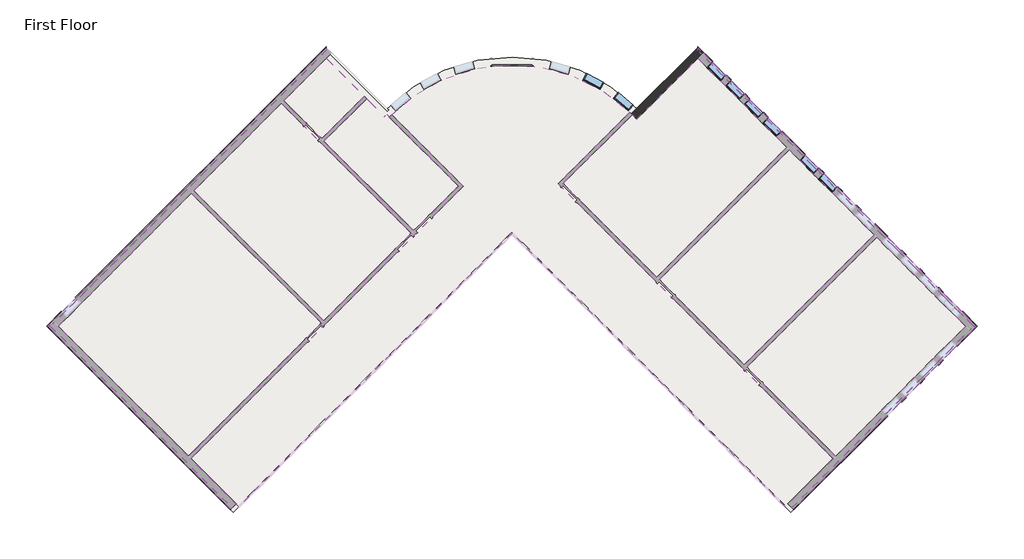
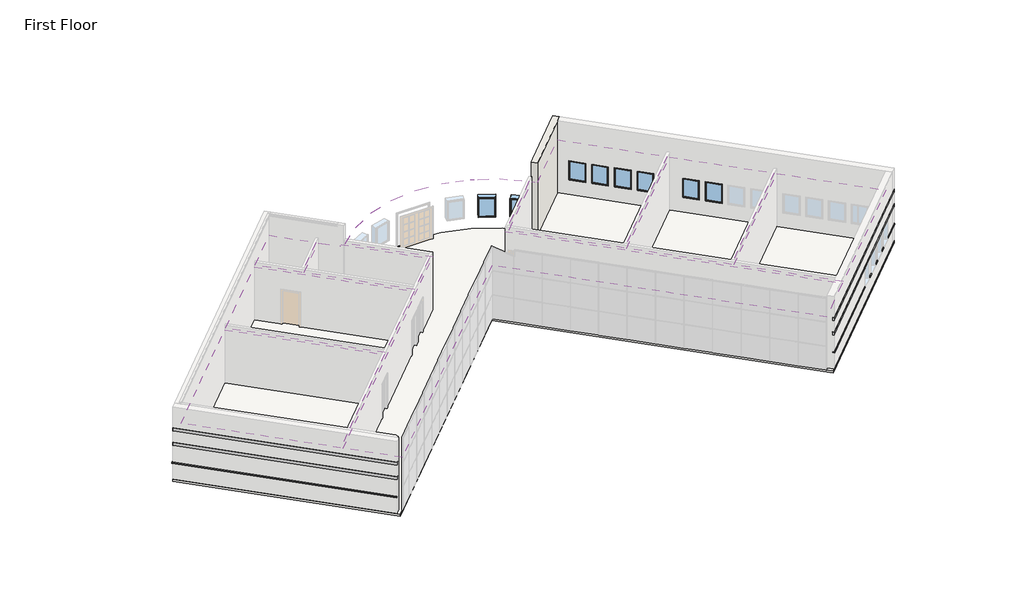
# One storey, part 5 of 5: 12 proxies, 8 coverings, 8 windows, 1 slab, 1 wall.
"""IFC4 building model written with IfcOpenShell, lengths in millimetres."""

from ifc_helpers import new_model, si_unit, point, frame, frame_2d, origin, place, context, project, spatial, polyline, circle_curve, trimmed, segment, composite_curve, outline, extrude, faceted_brep, transform, mapped, element, save
from ifc_brep_helpers import plane_surface, cylinder_surface, revolved_surface, advanced_brep
from components import window_15c49d37, window_0e2fc6ce

model = new_model("IFC4")

# Units and contexts
model_context = context("Model", 3, world=origin())
ifc_project = project(units=[si_unit("LENGTHUNIT", "METRE", prefix="MILLI")], contexts=[model_context])

# Site, building, storey
site = spatial("IfcSite", under=ifc_project)
building = spatial("IfcBuilding", under=site)
storey = spatial("IfcBuildingStorey", under=building, Name="First Floor", Elevation=0.0)

# Proxies
placement = place(None, origin())
element("IfcBuildingElementProxy", 1, Name="Wall Sweeps", at=placement, inside=storey, context=model_context, shape_type="Brep", body=[
    faceted_brep([(17381.0808171, -1390.1662438, 1085.85), (17446.187674, -1325.0593869, 1085.85), (17470.8833783, -1300.3636826, 1041.4), (17470.8833783, -1300.3636826, 1016.0), (17446.187674, -1325.0593869, 1016.0), (17381.0808171, -1390.1662438, 1016.0), (17979.3903812, -1988.4758079, 1085.85), (17979.3903812, -1988.4758079, 1016.0), (18158.9955036, -1988.4758079, 1016.0), (18158.9955036, -1988.4758079, 1041.4), (18109.604095, -1988.4758079, 1085.85)], [[[0, 1, 2, 3, 4, 5]], [[6, 7, 8, 9, 10]], [[1, 0, 6, 10]], [[2, 1, 10, 9]], [[3, 2, 9, 8]], [[5, 4, 3, 8, 7]], [[0, 5, 7, 6]]]),
    faceted_brep([(16269.7741222, -278.8595488, 1085.85), (16334.880979, -213.7526919, 1085.85), (16359.5766834, -189.0569876, 1041.4), (16359.5766834, -189.0569876, 1016.0), (16334.880979, -213.7526919, 1016.0), (16269.7741222, -278.8595488, 1016.0), (16485.3002691, -494.3856957, 1085.85), (16485.3002691, -494.3856957, 1016.0), (16550.4071259, -429.2788388, 1016.0), (16575.1028303, -404.5831345, 1016.0), (16575.1028303, -404.5831345, 1041.4), (16550.4071259, -429.2788388, 1085.85)], [[[0, 1, 2, 3, 4, 5]], [[6, 7, 8, 9, 10, 11]], [[1, 0, 6, 11]], [[2, 1, 11, 10]], [[3, 2, 10, 9]], [[5, 4, 3, 9, 8, 7]], [[0, 5, 7, 6]]]),
    faceted_brep([(15407.6695345, 583.2450388, 1085.85), (15472.7763914, 648.3518957, 1085.85), (15497.4720957, 673.0476, 1041.4), (15497.4720957, 673.0476, 1016.0), (15472.7763914, 648.3518957, 1016.0), (15407.6695345, 583.2450388, 1016.0), (15623.1956814, 367.7188919, 1085.85), (15623.1956814, 367.7188919, 1016.0), (15688.3025383, 432.8257488, 1016.0), (15712.9982426, 457.5214531, 1016.0), (15712.9982426, 457.5214531, 1041.4), (15688.3025383, 432.8257488, 1085.85)], [[[0, 1, 2, 3, 4, 5]], [[6, 7, 8, 9, 10, 11]], [[1, 0, 6, 11]], [[2, 1, 11, 10]], [[3, 2, 10, 9]], [[5, 4, 3, 9, 8, 7]], [[0, 5, 7, 6]]]),
    faceted_brep([(14545.5649469, 1445.3496264, 1085.85), (14610.6718038, 1510.4564833, 1085.85), (14635.3675081, 1535.1521876, 1041.4), (14635.3675081, 1535.1521876, 1016.0), (14610.6718038, 1510.4564833, 1016.0), (14545.5649469, 1445.3496264, 1016.0), (14761.0910938, 1229.8234795, 1085.85), (14761.0910938, 1229.8234795, 1016.0), (14826.1979507, 1294.9303364, 1016.0), (14850.893655, 1319.6260407, 1016.0), (14850.893655, 1319.6260407, 1041.4), (14826.1979507, 1294.9303364, 1085.85)], [[[0, 1, 2, 3, 4, 5]], [[6, 7, 8, 9, 10, 11]], [[1, 0, 6, 11]], [[2, 1, 11, 10]], [[3, 2, 10, 9]], [[5, 4, 3, 9, 8, 7]], [[0, 5, 7, 6]]]),
    faceted_brep([(13319.7599864, 2671.154587, 1085.85), (13384.8668433, 2736.2614438, 1085.85), (13409.5625476, 2760.9571482, 1041.4), (13409.5625476, 2760.9571482, 1016.0), (13384.8668433, 2736.2614438, 1016.0), (13319.7599864, 2671.154587, 1016.0), (13898.9865062, 2091.9280671, 1085.85), (13898.9865062, 2091.9280671, 1016.0), (13964.0933631, 2157.034924, 1016.0), (13988.7890674, 2181.7306284, 1016.0), (13988.7890674, 2181.7306284, 1041.4), (13964.0933631, 2157.034924, 1085.85)], [[[0, 1, 2, 3, 4, 5]], [[6, 7, 8, 9, 10, 11]], [[1, 0, 6, 11]], [[2, 1, 11, 10]], [[3, 2, 10, 9]], [[5, 4, 3, 9, 8, 7]], [[0, 5, 7, 6]]]),
    faceted_brep([(12457.6553988, 3533.2591746, 1085.85), (12522.7622556, 3598.3660315, 1085.85), (12547.45796, 3623.0617358, 1041.4), (12547.45796, 3623.0617358, 1016.0), (12522.7622556, 3598.3660315, 1016.0), (12457.6553988, 3533.2591746, 1016.0), (12673.1815457, 3317.7330277, 1085.85), (12673.1815457, 3317.7330277, 1016.0), (12738.2884025, 3382.8398846, 1016.0), (12762.9841069, 3407.5355889, 1016.0), (12762.9841069, 3407.5355889, 1041.4), (12738.2884025, 3382.8398846, 1085.85)], [[[0, 1, 2, 3, 4, 5]], [[6, 7, 8, 9, 10, 11]], [[1, 0, 6, 11]], [[2, 1, 11, 10]], [[3, 2, 10, 9]], [[5, 4, 3, 9, 8, 7]], [[0, 5, 7, 6]]]),
    faceted_brep([(8147.1324606, 7843.7821127, 1085.85), (8212.2393175, 7908.8889696, 1085.85), (8236.9350219, 7933.5846739, 1041.4), (8236.9350219, 7933.5846739, 1016.0), (8212.2393175, 7908.8889696, 1016.0), (8147.1324606, 7843.7821127, 1016.0), (8362.6586076, 7628.2559658, 1085.85), (8362.6586076, 7628.2559658, 1016.0), (8427.7654644, 7693.3628227, 1016.0), (8452.4611688, 7718.058527, 1016.0), (8452.4611688, 7718.058527, 1041.4), (8427.7654644, 7693.3628227, 1085.85)], [[[0, 1, 2, 3, 4, 5]], [[6, 7, 8, 9, 10, 11]], [[1, 0, 6, 11]], [[2, 1, 11, 10]], [[3, 2, 10, 9]], [[5, 4, 3, 9, 8, 7]], [[0, 5, 7, 6]]]),
    faceted_brep([(9009.2370483, 6981.6775251, 1085.85), (9074.3439051, 7046.7843819, 1085.85), (9099.0396095, 7071.4800863, 1041.4), (9099.0396095, 7071.4800863, 1016.0), (9074.3439051, 7046.7843819, 1016.0), (9009.2370483, 6981.6775251, 1016.0), (10086.8677828, 5904.0467905, 1085.85), (10086.8677828, 5904.0467905, 1016.0), (10151.9746397, 5969.1536474, 1016.0), (10176.670344, 5993.8493518, 1016.0), (10176.670344, 5993.8493518, 1041.4), (10151.9746397, 5969.1536474, 1085.85)], [[[0, 1, 2, 3, 4, 5]], [[6, 7, 8, 9, 10, 11]], [[1, 0, 6, 11]], [[2, 1, 11, 10]], [[3, 2, 10, 9]], [[5, 4, 3, 9, 8, 7]], [[0, 5, 7, 6]]]),
    faceted_brep([(10733.4462235, 5257.4683498, 1085.85), (10798.5530804, 5322.5752067, 1085.85), (10823.2487847, 5347.270911, 1041.4), (10823.2487847, 5347.270911, 1016.0), (10798.5530804, 5322.5752067, 1016.0), (10733.4462235, 5257.4683498, 1016.0), (10948.9723704, 5041.9422029, 1085.85), (10948.9723704, 5041.9422029, 1016.0), (11014.0792273, 5107.0490598, 1016.0), (11038.7749316, 5131.7447641, 1016.0), (11038.7749316, 5131.7447641, 1041.4), (11014.0792273, 5107.0490598, 1085.85)], [[[0, 1, 2, 3, 4, 5]], [[6, 7, 8, 9, 10, 11]], [[1, 0, 6, 11]], [[2, 1, 11, 10]], [[3, 2, 10, 9]], [[5, 4, 3, 9, 8, 7]], [[0, 5, 7, 6]]]),
    faceted_brep([(11595.5508111, 4395.3637622, 1085.85), (11660.657668, 4460.4706191, 1085.85), (11685.3533723, 4485.1663234, 1041.4), (11685.3533723, 4485.1663234, 1016.0), (11660.657668, 4460.4706191, 1016.0), (11595.5508111, 4395.3637622, 1016.0), (11811.076958, 4179.8376153, 1085.85), (11811.076958, 4179.8376153, 1016.0), (11876.1838149, 4244.9444722, 1016.0), (11900.8795193, 4269.6401765, 1016.0), (11900.8795193, 4269.6401765, 1041.4), (11876.1838149, 4244.9444722, 1085.85)], [[[0, 1, 2, 3, 4, 5]], [[6, 7, 8, 9, 10, 11]], [[1, 0, 6, 11]], [[2, 1, 11, 10]], [[3, 2, 10, 9]], [[5, 4, 3, 9, 8, 7]], [[0, 5, 7, 6]]]),
    faceted_brep([(5178.0352806, 10812.8792927, 1085.85), (5178.0352806, 10943.0930065, 1085.85), (5178.0352806, 10992.4844151, 1041.4), (5178.0352806, 10992.4844151, 1016.0), (5178.0352806, 10812.8792927, 1016.0), (5776.3448447, 10214.5697287, 1085.85), (5776.3448447, 10214.5697287, 1016.0), (5841.4517016, 10279.6765855, 1016.0), (5866.1474059, 10304.3722899, 1016.0), (5866.1474059, 10304.3722899, 1041.4), (5841.4517016, 10279.6765855, 1085.85), (5362.1305311, 10628.7840422, 1085.85), (5362.1305311, 10628.7840422, 1016.0)], [[[0, 1, 2, 3, 4]], [[5, 6, 7, 8, 9, 10]], [[1, 0, 11, 5, 10]], [[2, 1, 10, 9]], [[3, 2, 9, 8]], [[4, 3, 8, 7, 6, 12]], [[0, 4, 12, 6, 5, 11]]]),
    faceted_brep([(6422.9232854, 9567.9912879, 1085.85), (6488.0301423, 9633.0981448, 1085.85), (6512.7258466, 9657.7938491, 1041.4), (6512.7258466, 9657.7938491, 1016.0), (6488.0301423, 9633.0981448, 1016.0), (6422.9232854, 9567.9912879, 1016.0), (6638.4494323, 9352.465141, 1085.85), (6638.4494323, 9352.465141, 1016.0), (6703.5562892, 9417.5719979, 1016.0), (6728.2519935, 9442.2677022, 1016.0), (6728.2519935, 9442.2677022, 1041.4), (6703.5562892, 9417.5719979, 1085.85)], [[[0, 1, 2, 3, 4, 5]], [[6, 7, 8, 9, 10, 11]], [[1, 0, 6, 11]], [[2, 1, 11, 10]], [[3, 2, 10, 9]], [[5, 4, 3, 9, 8, 7]], [[0, 5, 7, 6]]]),
    faceted_brep([(7285.027873, 8705.8867003, 1085.85), (7350.1347299, 8770.9935572, 1085.85), (7374.8304342, 8795.6892615, 1041.4), (7374.8304342, 8795.6892615, 1016.0), (7350.1347299, 8770.9935572, 1016.0), (7285.027873, 8705.8867003, 1016.0), (7500.5540199, 8490.3605534, 1085.85), (7500.5540199, 8490.3605534, 1016.0), (7565.6608768, 8555.4674103, 1016.0), (7590.3565811, 8580.1631146, 1016.0), (7590.3565811, 8580.1631146, 1041.4), (7565.6608768, 8555.4674103, 1085.85)], [[[0, 1, 2, 3, 4, 5]], [[6, 7, 8, 9, 10, 11]], [[1, 0, 6, 11]], [[2, 1, 11, 10]], [[3, 2, 10, 9]], [[5, 4, 3, 9, 8, 7]], [[0, 5, 7, 6]]]),
])
element("IfcBuildingElementProxy", 2, Name="Wall Sweeps", at=placement, inside=storey, context=model_context, shape_type="Brep", body=[
    faceted_brep([(5178.0352806, 10943.0930065, 2336.8), (5178.0352806, 10943.0930065, 2133.6), (5178.0352806, 10812.8792927, 2133.6), (5178.0352806, 10812.8792927, 2336.8), (18109.604095, -1988.4758079, 2336.8), (17979.3903812, -1988.4758079, 2336.8), (17979.3903812, -1988.4758079, 2133.6), (18109.604095, -1988.4758079, 2133.6), (5427.237388, 10693.8908991, 2336.8), (17446.187674, -1325.0593869, 2133.6), (16550.4071259, -429.2788388, 2133.6), (16334.880979, -213.7526919, 2133.6), (15688.3025383, 432.8257488, 2133.6), (15472.7763914, 648.3518957, 2133.6), (14826.1979507, 1294.9303364, 2133.6), (14610.6718038, 1510.4564833, 2133.6), (13964.0933631, 2157.034924, 2133.6), (13384.8668433, 2736.2614438, 2133.6), (12738.2884025, 3382.8398846, 2133.6), (12522.7622556, 3598.3660315, 2133.6), (11876.1838149, 4244.9444722, 2133.6), (11660.657668, 4460.4706191, 2133.6), (11014.0792273, 5107.0490598, 2133.6), (10798.5530804, 5322.5752067, 2133.6), (10151.9746397, 5969.1536474, 2133.6), (9074.3439051, 7046.7843819, 2133.6), (8427.7654644, 7693.3628227, 2133.6), (8212.2393175, 7908.8889696, 2133.6), (7565.6608768, 8555.4674103, 2133.6), (7350.1347299, 8770.9935572, 2133.6), (6703.5562892, 9417.5719979, 2133.6), (6488.0301423, 9633.0981448, 2133.6), (5841.4517016, 10279.6765855, 2133.6), (5427.237388, 10693.8908991, 2133.6), (17381.0808171, -1390.1662438, 2133.6), (16485.3002691, -494.3856957, 2133.6), (16269.7741222, -278.8595488, 2133.6), (15623.1956814, 367.7188919, 2133.6), (15407.6695345, 583.2450388, 2133.6), (14761.0910938, 1229.8234795, 2133.6), (14545.5649469, 1445.3496264, 2133.6), (13898.9865062, 2091.9280671, 2133.6), (13319.7599864, 2671.154587, 2133.6), (12673.1815457, 3317.7330277, 2133.6), (12457.6553988, 3533.2591746, 2133.6), (11811.076958, 4179.8376153, 2133.6), (11595.5508111, 4395.3637622, 2133.6), (10948.9723704, 5041.9422029, 2133.6), (10733.4462235, 5257.4683498, 2133.6), (10086.8677828, 5904.0467905, 2133.6), (9009.2370483, 6981.6775251, 2133.6), (8362.6586076, 7628.2559658, 2133.6), (8147.1324606, 7843.7821127, 2133.6), (7500.5540199, 8490.3605534, 2133.6), (7285.027873, 8705.8867003, 2133.6), (6638.4494323, 9352.465141, 2133.6), (6422.9232854, 9567.9912879, 2133.6), (5776.3448447, 10214.5697287, 2133.6), (5362.1305311, 10628.7840422, 2133.6), (5362.1305311, 10628.7840422, 2336.8)], [[[0, 1, 2, 3]], [[4, 5, 6, 7]], [[1, 0, 8, 4, 7, 9, 10, 11, 12, 13, 14, 15, 16, 17, 18, 19, 20, 21, 22, 23, 24, 25, 26, 27, 28, 29, 30, 31, 32, 33]], [[2, 1, 33, 32, 31, 30, 29, 28, 27, 26, 25, 24, 23, 22, 21, 20, 19, 18, 17, 16, 15, 14, 13, 12, 11, 10, 9, 7, 6, 34, 35, 36, 37, 38, 39, 40, 41, 42, 43, 44, 45, 46, 47, 48, 49, 50, 51, 52, 53, 54, 55, 56, 57, 58]], [[3, 2, 58, 57, 56, 55, 54, 53, 52, 51, 50, 49, 48, 47, 46, 45, 44, 43, 42, 41, 40, 39, 38, 37, 36, 35, 34, 6, 5, 59]], [[0, 3, 59, 5, 4, 8]]]),
])
element("IfcBuildingElementProxy", 3, Name="Wall Sweeps", at=placement, inside=storey, context=model_context, shape_type="Brep", body=[
    faceted_brep([(5178.0352806, 10943.0930065, 3251.2), (5178.0352806, 10943.0930065, 3048.0), (5178.0352806, 10812.8792927, 3048.0), (5178.0352806, 10812.8792927, 3251.2), (18109.604095, -1988.4758079, 3251.2), (17979.3903812, -1988.4758079, 3251.2), (17979.3903812, -1988.4758079, 3048.0), (18109.604095, -1988.4758079, 3048.0), (5427.237388, 10693.8908991, 3251.2), (5427.237388, 10693.8908991, 3048.0), (5362.1305311, 10628.7840422, 3048.0), (5362.1305311, 10628.7840422, 3251.2)], [[[0, 1, 2, 3]], [[4, 5, 6, 7]], [[1, 0, 8, 4, 7, 9]], [[2, 1, 9, 7, 6, 10]], [[3, 2, 10, 6, 5, 11]], [[0, 3, 11, 5, 4, 8]]]),
])
element("IfcBuildingElementProxy", 4, Name="Wall Sweeps", at=placement, inside=storey, context=model_context, shape_type="Brep", body=[
    faceted_brep([(13898.9865062, -6068.8796829, 1085.85), (13964.0933631, -6133.9865398, 1085.85), (13988.7890674, -6158.6822441, 1041.4), (13988.7890674, -6158.6822441, 1016.0), (13964.0933631, -6133.9865398, 1016.0), (13898.9865062, -6068.8796829, 1016.0), (9548.0524155, -10419.8137735, 1085.85), (9548.0524155, -10419.8137735, 1016.0), (9613.1592724, -10484.9206304, 1016.0), (9637.8549767, -10509.6163347, 1016.0), (9637.8549767, -10509.6163347, 1041.4), (9613.1592724, -10484.9206304, 1085.85)], [[[0, 1, 2, 3, 4, 5]], [[6, 7, 8, 9, 10, 11]], [[1, 0, 6, 11]], [[2, 1, 11, 10]], [[3, 2, 10, 9]], [[5, 4, 3, 9, 8, 7]], [[0, 5, 7, 6]]]),
    faceted_brep([(17979.3903812, -1988.4758079, 1085.85), (18109.604095, -1988.4758079, 1085.85), (18158.9955036, -1988.4758079, 1041.4), (18158.9955036, -1988.4758079, 1016.0), (17979.3903812, -1988.4758079, 1016.0), (17131.8787098, -2835.9874793, 1085.85), (17131.8787098, -2835.9874793, 1016.0), (17196.9855667, -2901.0943362, 1016.0), (17221.681271, -2925.7900405, 1016.0), (17221.681271, -2925.7900405, 1041.4), (17196.9855667, -2901.0943362, 1085.85), (17795.2951307, -2172.5710583, 1085.85), (17795.2951307, -2172.5710583, 1016.0)], [[[0, 1, 2, 3, 4]], [[5, 6, 7, 8, 9, 10]], [[1, 0, 11, 5, 10]], [[2, 1, 10, 9]], [[3, 2, 9, 8]], [[4, 3, 8, 7, 6, 12]], [[0, 4, 12, 6, 5, 11]]]),
    faceted_brep([(16485.3002691, -3482.56592, 1085.85), (16550.4071259, -3547.6727769, 1085.85), (16575.1028303, -3572.3684812, 1041.4), (16575.1028303, -3572.3684812, 1016.0), (16550.4071259, -3547.6727769, 1016.0), (16485.3002691, -3482.56592, 1016.0), (16269.7741222, -3698.0920669, 1085.85), (16269.7741222, -3698.0920669, 1016.0), (16334.880979, -3763.1989238, 1016.0), (16359.5766834, -3787.8946281, 1016.0), (16359.5766834, -3787.8946281, 1041.4), (16334.880979, -3763.1989238, 1085.85)], [[[0, 1, 2, 3, 4, 5]], [[6, 7, 8, 9, 10, 11]], [[1, 0, 6, 11]], [[2, 1, 11, 10]], [[3, 2, 10, 9]], [[5, 4, 3, 9, 8, 7]], [[0, 5, 7, 6]]]),
    faceted_brep([(15623.1956814, -4344.6705076, 1085.85), (15688.3025383, -4409.7773645, 1085.85), (15712.9982426, -4434.4730688, 1041.4), (15712.9982426, -4434.4730688, 1016.0), (15688.3025383, -4409.7773645, 1016.0), (15623.1956814, -4344.6705076, 1016.0), (15407.6695345, -4560.1966545, 1085.85), (15407.6695345, -4560.1966545, 1016.0), (15472.7763914, -4625.3035114, 1016.0), (15497.4720957, -4649.9992157, 1016.0), (15497.4720957, -4649.9992157, 1041.4), (15472.7763914, -4625.3035114, 1085.85)], [[[0, 1, 2, 3, 4, 5]], [[6, 7, 8, 9, 10, 11]], [[1, 0, 6, 11]], [[2, 1, 11, 10]], [[3, 2, 10, 9]], [[5, 4, 3, 9, 8, 7]], [[0, 5, 7, 6]]]),
    faceted_brep([(14761.0910938, -5206.7750953, 1085.85), (14826.1979507, -5271.8819521, 1085.85), (14850.893655, -5296.5776565, 1041.4), (14850.893655, -5296.5776565, 1016.0), (14826.1979507, -5271.8819521, 1016.0), (14761.0910938, -5206.7750953, 1016.0), (14545.5649469, -5422.3012422, 1085.85), (14545.5649469, -5422.3012422, 1016.0), (14610.6718038, -5487.408099, 1016.0), (14635.3675081, -5512.1038034, 1016.0), (14635.3675081, -5512.1038034, 1041.4), (14610.6718038, -5487.408099, 1085.85)], [[[0, 1, 2, 3, 4, 5]], [[6, 7, 8, 9, 10, 11]], [[1, 0, 6, 11]], [[2, 1, 11, 10]], [[3, 2, 10, 9]], [[5, 4, 3, 9, 8, 7]], [[0, 5, 7, 6]]]),
])
element("IfcBuildingElementProxy", 5, Name="Wall Sweeps", at=placement, inside=storey, context=model_context, shape_type="Brep", body=[
    faceted_brep([(18109.604095, -1988.4758079, 2336.8), (18109.604095, -1988.4758079, 2133.6), (17979.3903812, -1988.4758079, 2133.6), (17979.3903812, -1988.4758079, 2336.8), (9613.1592724, -10484.9206304, 2336.8), (9548.0524155, -10419.8137735, 2336.8), (9548.0524155, -10419.8137735, 2133.6), (9613.1592724, -10484.9206304, 2133.6), (17860.4019876, -2237.6779152, 2336.8), (13964.0933631, -6133.9865398, 2133.6), (14610.6718038, -5487.408099, 2133.6), (14826.1979507, -5271.8819521, 2133.6), (15472.7763914, -4625.3035114, 2133.6), (15688.3025383, -4409.7773645, 2133.6), (16334.880979, -3763.1989238, 2133.6), (16550.4071259, -3547.6727769, 2133.6), (17196.9855667, -2901.0943362, 2133.6), (17860.4019876, -2237.6779152, 2133.6), (13898.9865062, -6068.8796829, 2133.6), (14545.5649469, -5422.3012422, 2133.6), (14761.0910938, -5206.7750953, 2133.6), (15407.6695345, -4560.1966545, 2133.6), (15623.1956814, -4344.6705076, 2133.6), (16269.7741222, -3698.0920669, 2133.6), (16485.3002691, -3482.56592, 2133.6), (17131.8787098, -2835.9874793, 2133.6), (17795.2951307, -2172.5710583, 2133.6), (17795.2951307, -2172.5710583, 2336.8)], [[[0, 1, 2, 3]], [[4, 5, 6, 7]], [[1, 0, 8, 4, 7, 9, 10, 11, 12, 13, 14, 15, 16, 17]], [[2, 1, 17, 16, 15, 14, 13, 12, 11, 10, 9, 7, 6, 18, 19, 20, 21, 22, 23, 24, 25, 26]], [[3, 2, 26, 25, 24, 23, 22, 21, 20, 19, 18, 6, 5, 27]], [[0, 3, 27, 5, 4, 8]]]),
])
element("IfcBuildingElementProxy", 6, Name="Wall Sweeps", at=placement, inside=storey, context=model_context, shape_type="Brep", body=[
    faceted_brep([(18109.604095, -1988.4758079, 3251.2), (18109.604095, -1988.4758079, 3048.0), (17979.3903812, -1988.4758079, 3048.0), (17979.3903812, -1988.4758079, 3251.2), (9613.1592724, -10484.9206304, 3251.2), (9548.0524155, -10419.8137735, 3251.2), (9548.0524155, -10419.8137735, 3048.0), (9613.1592724, -10484.9206304, 3048.0), (17860.4019876, -2237.6779152, 3251.2), (17860.4019876, -2237.6779152, 3048.0), (17795.2951307, -2172.5710583, 3048.0), (17795.2951307, -2172.5710583, 3251.2)], [[[0, 1, 2, 3]], [[4, 5, 6, 7]], [[1, 0, 8, 4, 7, 9]], [[2, 1, 9, 7, 6, 10]], [[3, 2, 10, 6, 5, 11]], [[0, 3, 11, 5, 4, 8]]]),
])
element("IfcBuildingElementProxy", 7, Name="Wall Sweeps", at=placement, inside=storey, context=model_context, shape_type="Brep", body=[
    faceted_brep([(-16434.0736067, -10419.8137735, 1085.85), (-16499.1804636, -10484.9206304, 1085.85), (-16523.876168, -10509.6163347, 1041.4), (-16523.876168, -10509.6163347, 1016.0), (-16499.1804636, -10484.9206304, 1016.0), (-16434.0736067, -10419.8137735, 1016.0), (-24865.4115724, -1988.4758079, 1085.85), (-24865.4115724, -1988.4758079, 1016.0), (-25045.0166948, -1988.4758079, 1016.0), (-25045.0166948, -1988.4758079, 1041.4), (-24995.6252862, -1988.4758079, 1085.85)], [[[0, 1, 2, 3, 4, 5]], [[6, 7, 8, 9, 10]], [[1, 0, 6, 10]], [[2, 1, 10, 9]], [[3, 2, 9, 8]], [[5, 4, 3, 8, 7]], [[0, 5, 7, 6]]]),
])
element("IfcBuildingElementProxy", 8, Name="Wall Sweeps", at=placement, inside=storey, context=model_context, shape_type="SweptSolid", body=[
    extrude(outline(polyline([(-16434.0736067, -10419.8137735), (-16499.1804636, -10484.9206304), (-24995.6252862, -1988.4758079), (-24865.4115724, -1988.4758079), (-16434.0736067, -10419.8137735)])), frame((0.0, 0.0, 2133.6), z_axis=(0.0, 0.0, 1.0), x_axis=(1.0, 0.0, 0.0)), (0.0, 0.0, 1.0), 203.2),
])
element("IfcBuildingElementProxy", 9, Name="Wall Sweeps", at=placement, inside=storey, context=model_context, shape_type="SweptSolid", body=[
    extrude(outline(polyline([(-16434.0736067, -10419.8137735), (-16499.1804636, -10484.9206304), (-24995.6252862, -1988.4758079), (-24865.4115724, -1988.4758079), (-16434.0736067, -10419.8137735)])), frame((0.0, 0.0, 3048.0), z_axis=(0.0, 0.0, 1.0), x_axis=(1.0, 0.0, 0.0)), (0.0, 0.0, 1.0), 203.2),
])
element("IfcBuildingElementProxy", 10, Name="Wall Sweeps", at=placement, inside=storey, context=model_context, shape_type="Brep", body=[
    faceted_brep([(-23620.5235676, -743.5878031, 1085.85), (-23685.6304245, -678.4809462, 1085.85), (-23710.3261288, -653.7852419, 1041.4), (-23710.3261288, -653.7852419, 1016.0), (-23685.6304245, -678.4809462, 1016.0), (-23620.5235676, -743.5878031, 1016.0), (-12064.0564718, 10812.8792927, 1085.85), (-12064.0564718, 10812.8792927, 1016.0), (-12064.0564718, 10992.4844151, 1016.0), (-12064.0564718, 10992.4844151, 1041.4), (-12064.0564718, 10943.0930065, 1085.85)], [[[0, 1, 2, 3, 4, 5]], [[6, 7, 8, 9, 10]], [[1, 0, 6, 10]], [[2, 1, 10, 9]], [[3, 2, 9, 8]], [[5, 4, 3, 8, 7]], [[0, 5, 7, 6]]]),
    faceted_brep([(-24865.4115724, -1988.4758079, 1085.85), (-24995.6252862, -1988.4758079, 1085.85), (-25045.0166948, -1988.4758079, 1041.4), (-25045.0166948, -1988.4758079, 1016.0), (-24865.4115724, -1988.4758079, 1016.0), (-24267.1020084, -1390.1662438, 1085.85), (-24267.1020084, -1390.1662438, 1016.0), (-24332.2088652, -1325.0593869, 1016.0), (-24356.9045696, -1300.3636826, 1016.0), (-24356.9045696, -1300.3636826, 1041.4), (-24332.2088652, -1325.0593869, 1085.85), (-24681.3163219, -1804.3805574, 1085.85), (-24681.3163219, -1804.3805574, 1016.0)], [[[0, 1, 2, 3, 4]], [[5, 6, 7, 8, 9, 10]], [[1, 0, 11, 5, 10]], [[2, 1, 10, 9]], [[3, 2, 9, 8]], [[4, 3, 8, 7, 6, 12]], [[0, 4, 12, 6, 5, 11]]]),
])
element("IfcBuildingElementProxy", 11, Name="Wall Sweeps", at=placement, inside=storey, context=model_context, shape_type="Brep", body=[
    faceted_brep([(-24995.6252862, -1988.4758079, 2336.8), (-24995.6252862, -1988.4758079, 2133.6), (-24865.4115724, -1988.4758079, 2133.6), (-24865.4115724, -1988.4758079, 2336.8), (-12064.0564718, 10943.0930065, 2336.8), (-12064.0564718, 10812.8792927, 2336.8), (-12064.0564718, 10812.8792927, 2133.6), (-12064.0564718, 10943.0930065, 2133.6), (-24746.4231788, -1739.2737005, 2336.8), (-23685.6304245, -678.4809462, 2133.6), (-24332.2088652, -1325.0593869, 2133.6), (-24746.4231788, -1739.2737005, 2133.6), (-23620.5235676, -743.5878031, 2133.6), (-24267.1020084, -1390.1662438, 2133.6), (-24681.3163219, -1804.3805574, 2133.6), (-24681.3163219, -1804.3805574, 2336.8)], [[[0, 1, 2, 3]], [[4, 5, 6, 7]], [[1, 0, 8, 4, 7, 9, 10, 11]], [[2, 1, 11, 10, 9, 7, 6, 12, 13, 14]], [[3, 2, 14, 13, 12, 6, 5, 15]], [[0, 3, 15, 5, 4, 8]]]),
])
element("IfcBuildingElementProxy", 12, Name="Wall Sweeps", at=placement, inside=storey, context=model_context, shape_type="Brep", body=[
    faceted_brep([(-24995.6252862, -1988.4758079, 3251.2), (-24995.6252862, -1988.4758079, 3048.0), (-24865.4115724, -1988.4758079, 3048.0), (-24865.4115724, -1988.4758079, 3251.2), (-12064.0564718, 10943.0930065, 3251.2), (-12064.0564718, 10812.8792927, 3251.2), (-12064.0564718, 10812.8792927, 3048.0), (-12064.0564718, 10943.0930065, 3048.0), (-24746.4231788, -1739.2737005, 3251.2), (-24746.4231788, -1739.2737005, 3048.0), (-24681.3163219, -1804.3805574, 3048.0), (-24681.3163219, -1804.3805574, 3251.2)], [[[0, 1, 2, 3]], [[4, 5, 6, 7]], [[1, 0, 8, 4, 7, 9]], [[2, 1, 9, 7, 6, 10]], [[3, 2, 10, 6, 5, 11]], [[0, 3, 11, 5, 4, 8]]]),
])

# Coverings
element("IfcCovering", 13, ObjectType="2' x 2' ACT System", at=placement, inside=storey, context=model_context, shape_type="SweptSolid", body=[
    extrude(outline(polyline([(-12281.8276828, -1847.036774), (-18460.2438941, -8025.4529853), (-24497.2210715, -1988.4758079), (-18318.8048602, 4189.9404034), (-12281.8276828, -1847.036774)])), frame((0.0, 0.0, 3352.8), z_axis=(0.0, 0.0, 1.0), x_axis=(1.0, 0.0, 0.0)), (0.0, 0.0, 1.0), 57.15),
])
element("IfcCovering", 14, ObjectType="2' x 2' ACT System", at=placement, inside=storey, context=model_context, shape_type="SweptSolid", body=[
    extrude(outline(polyline([(-18208.7967227, 4299.9485409), (-14149.720956, 8359.0243076), (-8112.7437786, 2322.0471303), (-12171.8195453, -1737.0286365), (-18208.7967227, 4299.9485409)])), frame((0.0, 0.0, 3352.8), z_axis=(0.0, 0.0, 1.0), x_axis=(1.0, 0.0, 0.0)), (0.0, 0.0, 1.0), 57.15),
])
element("IfcCovering", 15, ObjectType="2' x 2' ACT System", at=placement, inside=storey, context=model_context, shape_type="SweptSolid", body=[
    extrude(outline(polyline([(-14039.7128185, 8469.0324451), (-12064.0564718, 10444.6887918), (-10303.9262721, 8684.558592), (-12279.5826187, 6708.9022454), (-14039.7128185, 8469.0324451)])), frame((0.0, 0.0, 3352.8), z_axis=(0.0, 0.0, 1.0), x_axis=(1.0, 0.0, 0.0)), (0.0, 0.0, 1.0), 57.15),
])
element("IfcCovering", 16, ObjectType="2' x 2' ACT System", at=placement, inside=storey, context=model_context, shape_type="SweptSolid", body=[
    extrude(outline(polyline([(-10193.9181346, 8574.5504545), (-9361.2454813, 7741.8778012), (-9257.9725359, 7845.1507466), (-5923.8063491, 4510.9845598), (-8002.7356411, 2432.0552677), (-12169.5744813, 6598.8941079), (-10193.9181346, 8574.5504545)])), frame((0.0, 0.0, 3352.8), z_axis=(0.0, 0.0, 1.0), x_axis=(1.0, 0.0, 0.0)), (0.0, 0.0, 1.0), 57.15),
])
element("IfcCovering", 17, ObjectType="2' x 2' ACT System", at=placement, inside=storey, context=model_context, shape_type="SweptSolid", body=[
    extrude(outline(composite_curve([segment(polyline([(-1297.8519147, 4626.6053573), (11464.2145654, -8135.4611227), (9239.3561114, -10360.3195767), (-3443.0105956, 2322.0471303), (-16125.3773026, -10360.3195767), (-18350.2357566, -8135.4611227), (-5703.7900741, 4510.9845598), (-9024.2284636, 7831.4229492)]), True, "CONTINUOUS"), segment(trimmed(circle_curve(frame_2d((-3443.0105956, 2272.6557216)), 7877.175), [point((-9024.2284636, 7831.4229492))], [point((2021.619387, 7946.076659))], False, "CARTESIAN"), True, "CONTINUOUS"), segment(polyline([(2021.619387, 7946.076659), (-1297.8519147, 4626.6053573)]), True, "CONTINUOUS")], self_intersect=False)), frame((0.0, 0.0, 3352.8), z_axis=(0.0, 0.0, 1.0), x_axis=(1.0, 0.0, 0.0)), (0.0, 0.0, 1.0), 57.15),
])
element("IfcCovering", 18, ObjectType="2' x 2' ACT System", at=placement, inside=storey, context=model_context, shape_type="SweptSolid", body=[
    extrude(outline(composite_curve([segment(polyline([(2346.973313, 7613.6268242), (5178.0352806, 10444.6887918), (9308.9530963, 6313.7709761), (3271.9759189, 276.7937987), (-1077.8356397, 4626.6053573), (2132.6030957, 7837.0440928)]), True, "CONTINUOUS"), segment(trimmed(circle_curve(frame_2d((-3443.0105956, 2272.6557216)), 7877.175), [point((2132.6030957, 7837.0440928))], [point((2346.973313, 7613.6268242))], False, "CARTESIAN"), True, "CONTINUOUS")], self_intersect=False)), frame((0.0, 0.0, 3352.8), z_axis=(0.0, 0.0, 1.0), x_axis=(1.0, 0.0, 0.0)), (0.0, 0.0, 1.0), 57.15),
])
element("IfcCovering", 19, ObjectType="2' x 2' ACT System", at=placement, inside=storey, context=model_context, shape_type="SweptSolid", body=[
    extrude(outline(polyline([(3381.9840564, 166.7856612), (9418.9612338, 6203.7628386), (13370.2739271, 2252.4501453), (7333.2967497, -3784.5270321), (3381.9840564, 166.7856612)])), frame((0.0, 0.0, 3352.8), z_axis=(0.0, 0.0, 1.0), x_axis=(1.0, 0.0, 0.0)), (0.0, 0.0, 1.0), 57.15),
])
element("IfcCovering", 20, ObjectType="2' x 2' ACT System", at=placement, inside=storey, context=model_context, shape_type="SweptSolid", body=[
    extrude(outline(polyline([(7443.3048872, -3894.5351696), (13480.2820645, 2142.4420078), (17611.1998802, -1988.4758079), (11574.2227029, -8025.4529853), (7443.3048872, -3894.5351696)])), frame((0.0, 0.0, 3352.8), z_axis=(0.0, 0.0, 1.0), x_axis=(1.0, 0.0, 0.0)), (0.0, 0.0, 1.0), 57.15),
])

# Slab
element("IfcSlab", 21, ObjectType="LW Concrete on Metal Deck", at=placement, inside=storey, context=model_context, shape_type="SweptSolid", body=[
    extrude(outline(composite_curve([segment(polyline([(-16374.5794099, -10609.5216841), (-24995.6252862, -1988.4758079), (-12064.0564718, 10943.0930065), (-9237.4684553, 8116.50499)]), True, "CONTINUOUS"), segment(trimmed(circle_curve(frame_2d((-3443.0105956, 2272.6557216)), 8229.6), [point((-9237.4684553, 8116.50499))], [point((2351.4472641, 8116.50499))], False, "CARTESIAN"), True, "CONTINUOUS"), segment(polyline([(2351.4472641, 8116.50499), (5178.0352806, 10943.0930065), (18109.604095, -1988.4758079), (9488.5582187, -10609.5216841), (-3443.0105956, 2322.0471303), (-16374.5794099, -10609.5216841)]), True, "CONTINUOUS")], self_intersect=False)), frame((0.0, 0.0, -139.7), z_axis=(0.0, 0.0, 1.0), x_axis=(1.0, 0.0, 0.0)), (0.0, 0.0, 1.0), 139.7),
])

# Wall
element("IfcWall", 22, ObjectType="Exterior - Split Face and CMU on Mtl. Stud", at=placement, inside=storey, context=model_context, shape_type="AdvancedBrep", body=[
    advanced_brep(
    [(2346.973313, 7613.6268242, 0.0), (5178.0352806, 10444.6887918, 0.0), (5427.237388, 10693.8908991, 0.0), (5427.237388, 10693.8908991, 1016.0), (5362.1305311, 10628.7840422, 1016.0), (5362.1305311, 10628.7840422, 1085.85), (5427.237388, 10693.8908991, 1085.85), (5427.237388, 10693.8908991, 2133.6), (5362.1305311, 10628.7840422, 2133.6), (5362.1305311, 10628.7840422, 2336.8), (5427.237388, 10693.8908991, 2336.8), (5427.237388, 10693.8908991, 3048.0), (5362.1305311, 10628.7840422, 3048.0), (5362.1305311, 10628.7840422, 3251.2), (5427.237388, 10693.8908991, 3251.2), (5427.237388, 10693.8908991, 4572.0), (5178.0352806, 10444.6887918, 4572.0), (2346.973313, 7613.6268242, 4572.0), (2102.2428123, 7867.3005381, 4572.0), (2351.4472641, 8116.50499, 4572.0), (5178.0352806, 10943.0930065, 4572.0), (5178.0352806, 10943.0930065, 3251.2), (2351.4472641, 8116.50499, 3251.2), (2286.3398143, 8051.3975402, 3251.2), (2286.3398143, 8051.3975402, 3048.0), (2351.4472641, 8116.50499, 3048.0), (5178.0352806, 10943.0930065, 3048.0), (5178.0352806, 10943.0930065, 2336.8), (2351.4472641, 8116.50499, 2336.8), (2286.3398143, 8051.3975402, 2336.8), (2286.3398143, 8051.3975402, 2133.6), (2351.4472641, 8116.50499, 2133.6), (5178.0352806, 10943.0930065, 2133.6), (5178.0352806, 10943.0930065, 1085.85), (2351.4472641, 8116.50499, 1085.85), (2286.3398143, 8051.3975402, 1085.85), (2286.3398143, 8051.3975402, 1016.0), (2351.4472641, 8116.50499, 1016.0), (5178.0352806, 10943.0930065, 1016.0), (5178.0352806, 10943.0930065, 0.0), (2351.4472641, 8116.50499, 0.0), (2102.2428123, 7867.3005381, 0.0), (2167.2578198, 7802.1018319, 0.0), (5243.1421375, 10877.9861496, 0.0), (2351.3577606, 7986.2017727, 1016.0), (2351.3577606, 7986.2017727, 1085.85), (5178.0352806, 10812.8792927, 1085.85), (5178.0352806, 10812.8792927, 1016.0), (2351.3577606, 7986.2017727, 2133.6), (2351.3577606, 7986.2017727, 2336.8), (5178.0352806, 10812.8792927, 2336.8), (5178.0352806, 10812.8792927, 2133.6), (5178.0352806, 10812.8792927, 3048.0), (2351.3577606, 7986.2017727, 3048.0), (2351.3577606, 7986.2017727, 3251.2), (5178.0352806, 10812.8792927, 3251.2), (2132.6031084, 7837.04408, 0.0)],
    [
        (0, 1),
        (1, 2),
        (2, 3),
        (3, 4),
        (4, 5),
        (5, 6),
        (6, 7),
        (7, 8),
        (8, 9),
        (9, 10),
        (10, 11),
        (11, 12),
        (12, 13),
        (13, 14),
        (14, 15),
        (15, 16),
        (16, 17),
        (17, 0),
        (18, 19),
        (19, 20),
        (20, 21),
        (21, 22),
        (22, 23),
        (23, 24),
        (24, 25),
        (25, 26),
        (26, 27),
        (27, 28),
        (28, 29),
        (29, 30),
        (30, 31),
        (31, 32),
        (32, 33),
        (33, 34),
        (34, 35),
        (35, 36),
        (36, 37),
        (37, 38),
        (38, 39),
        (39, 40),
        (40, 41),
        (41, 18),
        (15, 20),
        (18, 17, circle_curve(frame((-3443.0105956, 2272.6557216, 4572.0), z_axis=(0.0, 0.0, -1.0), x_axis=(1.0, 0.0, 0.0)), 7877.175)),
        (0, 42, circle_curve(frame((-3443.0105956, 2272.6557216, 0.0), z_axis=(0.0, 0.0, 1.0), x_axis=(1.0, 0.0, 0.0)), 7877.175)),
        (42, 43),
        (43, 2),
        (44, 45),
        (45, 46),
        (46, 47),
        (47, 44),
        (48, 49),
        (49, 50),
        (50, 51),
        (51, 48),
        (52, 53),
        (53, 54),
        (54, 55),
        (55, 52),
        (14, 21),
        (43, 39),
        (38, 3),
        (6, 33),
        (32, 7),
        (10, 27),
        (26, 11),
        (46, 5),
        (4, 47),
        (50, 9),
        (8, 51),
        (55, 13),
        (12, 52),
        (42, 56, circle_curve(frame((-3443.0105956, 2272.6557216, 0.0), z_axis=(0.0, 0.0, 1.0), x_axis=(1.0, 0.0, 0.0)), 7877.175)),
        (56, 41, circle_curve(frame((-3443.0105956, 2272.6557216, 0.0), z_axis=(0.0, 0.0, 1.0), x_axis=(1.0, 0.0, 0.0)), 7877.175)),
        (45, 35, circle_curve(frame((-3443.0105956, 2272.6557216, 1085.85), z_axis=(0.0, 0.0, 1.0), x_axis=(0.684286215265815, 0.7292135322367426, 0.0)), 8137.525)),
        (36, 44, circle_curve(frame((-3443.0105956, 2272.6557216, 1016.0), z_axis=(0.0, 0.0, -1.0), x_axis=(0.684286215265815, 0.7292135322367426, 0.0)), 8137.525)),
        (30, 48, circle_curve(frame((-3443.0105956, 2272.6557216, 2133.6), z_axis=(0.0, 0.0, -1.0), x_axis=(-0.7040995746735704, 0.7101012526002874, 0.0)), 8137.525)),
        (29, 49, circle_curve(frame((-3443.0105956, 2272.6557216, 2336.8), z_axis=(0.0, 0.0, -1.0), x_axis=(-0.7040995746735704, 0.7101012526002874, 0.0)), 8137.525)),
        (24, 53, circle_curve(frame((-3443.0105956, 2272.6557216, 3048.0), z_axis=(0.0, 0.0, -1.0), x_axis=(-0.7040995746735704, 0.7101012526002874, 0.0)), 8137.525)),
        (23, 54, circle_curve(frame((-3443.0105956, 2272.6557216, 3251.2), z_axis=(0.0, 0.0, -1.0), x_axis=(-0.7040995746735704, 0.7101012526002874, 0.0)), 8137.525)),
    ],
    [
        plane_surface(frame((2409.8713313, 7676.5248424, 0.0), z_axis=(0.7071067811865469, -0.7071067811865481, 0.0), x_axis=(0.7071067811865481, 0.7071067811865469, 0.0))),
        plane_surface(frame((2160.6692239, 7925.7269498, 0.0), z_axis=(-0.7071067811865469, 0.7071067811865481, 0.0), x_axis=(-0.7071067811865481, -0.7071067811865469, 0.0))),
        plane_surface(frame((5302.6363343, 10569.2898454, 4572.0), z_axis=(0.0, 0.0, 1.0), x_axis=(-0.707106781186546, 0.7071067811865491, 0.0))),
        plane_surface(frame((2475.22429, 7741.8778012, 0.0), z_axis=(0.0, 0.0, -1.0), x_axis=(-0.7071067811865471, 0.7071067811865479, 0.0))),
        plane_surface(frame((2351.3577606, 7986.2017727, 1016.0), z_axis=(-0.7071067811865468, 0.7071067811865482, 0.0), x_axis=(0.7071067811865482, 0.7071067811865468, 0.0))),
        plane_surface(frame((2351.3577606, 7986.2017727, 2133.6), z_axis=(-0.7071067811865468, 0.7071067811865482, 0.0), x_axis=(0.7071067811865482, 0.7071067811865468, 0.0))),
        plane_surface(frame((2351.3577606, 7986.2017727, 3048.0), z_axis=(-0.7071067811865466, 0.7071067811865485, 0.0), x_axis=(0.7071067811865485, 0.7071067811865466, 0.0))),
        plane_surface(frame((5178.0352806, 10943.0930065, 0.0), z_axis=(0.7071067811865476, 0.7071067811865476, 0.0), x_axis=(-0.7071067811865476, 0.7071067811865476, 0.0))),
        plane_surface(frame((5178.0352806, 10812.8792927, 1016.0), z_axis=(0.7071067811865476, 0.7071067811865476, 0.0), x_axis=(0.7071067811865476, -0.7071067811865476, 0.0))),
        plane_surface(frame((5178.0352806, 10812.8792927, 2133.6), z_axis=(0.7071067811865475, 0.7071067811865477, 0.0), x_axis=(0.7071067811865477, -0.7071067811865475, 0.0))),
        plane_surface(frame((5178.0352806, 10812.8792927, 3048.0), z_axis=(0.7071067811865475, 0.7071067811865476, 0.0), x_axis=(0.7071067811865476, -0.7071067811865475, 0.0))),
        plane_surface(frame((0.0, 0.0, 0.0), z_axis=(0.0, 0.0, -1.0), x_axis=(1.0, 0.0, 0.0))),
        plane_surface(frame((-3443.0105956, 2272.6557216, 1085.85), z_axis=(0.0, 0.0, -1.0), x_axis=(0.684286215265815, 0.7292135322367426, 0.0))),
        plane_surface(frame((-3443.0105956, 2272.6557216, 1016.0), z_axis=(0.0, 0.0, 1.0), x_axis=(0.684286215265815, 0.7292135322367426, 0.0))),
        cylinder_surface(frame((-3443.0105956, 2272.6557216, 1016.0), z_axis=(0.0, 0.0, -1.0), x_axis=(0.684286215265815, 0.7292135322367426, 0.0)), 8137.525),
        plane_surface(frame((-3443.0105956, 2272.6557216, 2133.6), z_axis=(0.0, 0.0, 1.0), x_axis=(-0.7040995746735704, 0.7101012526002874, 0.0))),
        cylinder_surface(frame((-3443.0105956, 2272.6557216, 2133.6), z_axis=(0.0, 0.0, -1.0), x_axis=(-0.7040995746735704, 0.7101012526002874, 0.0)), 8137.525),
        plane_surface(frame((-3443.0105956, 2272.6557216, 2336.8), z_axis=(0.0, 0.0, -1.0), x_axis=(-0.7040995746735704, 0.7101012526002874, 0.0))),
        plane_surface(frame((-3443.0105956, 2272.6557216, 3048.0), z_axis=(0.0, 0.0, 1.0), x_axis=(-0.7040995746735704, 0.7101012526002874, 0.0))),
        cylinder_surface(frame((-3443.0105956, 2272.6557216, 3048.0), z_axis=(0.0, 0.0, -1.0), x_axis=(-0.7040995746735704, 0.7101012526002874, 0.0)), 8137.525),
        plane_surface(frame((-3443.0105956, 2272.6557216, 3251.2), z_axis=(0.0, 0.0, -1.0), x_axis=(-0.7040995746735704, 0.7101012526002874, 0.0))),
        revolved_surface(polyline([(4434.1644044, 2272.6557216, 0.0), (4434.1644044, 2272.6557216, 4572.0)]), (-3443.0105956, 2272.6557216, 0.0), (0.0, 0.0, -1.0)),
    ],
    [
        (0, [[1, 2, 3, 4, 5, 6, 7, 8, 9, 10, 11, 12, 13, 14, 15, 16, 17, 18]]),
        (1, [[19, 20, 21, 22, 23, 24, 25, 26, 27, 28, 29, 30, 31, 32, 33, 34, 35, 36, 37, 38, 39, 40, 41, 42]]),
        (2, [[-17, -16, 43, -20, -19, 44]]),
        (3, [[-2, -1, 45, 46, 47]]),
        (4, [[48, 49, 50, 51]]),
        (5, [[52, 53, 54, 55]]),
        (6, [[56, 57, 58, 59]]),
        (7, [[-43, -15, 60, -21]]),
        (7, [[-47, 61, -39, 62, -3]]),
        (7, [[-7, 63, -33, 64]]),
        (7, [[65, -27, 66, -11]]),
        (8, [[-50, 67, -5, 68]]),
        (9, [[-54, 69, -9, 70]]),
        (10, [[-59, 71, -13, 72]]),
        (11, [[-41, -40, -61, -46, 73, 74]]),
        (12, [[-49, 75, -35, -34, -63, -6, -67]]),
        (13, [[-51, -68, -4, -62, -38, -37, 76]]),
        (14, [[-48, -76, -36, -75]]),
        (15, [[-55, -70, -8, -64, -32, -31, 77]]),
        (16, [[-52, -77, -30, 78]]),
        (17, [[-53, -78, -29, -28, -65, -10, -69]]),
        (18, [[-56, -72, -12, -66, -26, -25, 79]]),
        (19, [[-57, -79, -24, 80]]),
        (20, [[-58, -80, -23, -22, -60, -14, -71]]),
        (21, [[-44, -42, -74, -73, -45, -18]]),
    ],
),
])

# Windows
window_shape = window_15c49d37(model_context)
element("IfcWindow", 23, ObjectType="Fixed : 36\" x 48\"", at=placement, inside=storey, context=model_context, shape_type="MappedRepresentation", body=[
    mapped(window_shape, transform((6013.1990999, 9858.7270799, 0.0), x_axis=(-0.7071067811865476, 0.7071067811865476, 0.0), y_axis=(-0.7071067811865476, -0.7071067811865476, 0.0), z_axis=(0.0, 0.0, 1.0))),
])
element("IfcWindow", 24, ObjectType="Fixed : 36\" x 48\"", at=placement, inside=storey, context=model_context, shape_type="MappedRepresentation", body=[
    mapped(window_shape, transform((6875.3036875, 8996.6224922, 0.0), x_axis=(-0.7071067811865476, 0.7071067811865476, 0.0), y_axis=(-0.7071067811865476, -0.7071067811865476, 0.0), z_axis=(0.0, 0.0, 1.0))),
])
element("IfcWindow", 25, ObjectType="Fixed : 36\" x 48\"", at=placement, inside=storey, context=model_context, shape_type="MappedRepresentation", body=[
    mapped(window_shape, transform((7737.4082751, 8134.5179046, 0.0), x_axis=(-0.7071067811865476, 0.7071067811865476, 0.0), y_axis=(-0.7071067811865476, -0.7071067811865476, 0.0), z_axis=(0.0, 0.0, 1.0))),
])
element("IfcWindow", 26, ObjectType="Fixed : 36\" x 48\"", at=placement, inside=storey, context=model_context, shape_type="MappedRepresentation", body=[
    mapped(window_shape, transform((8599.5128627, 7272.413317, 0.0), x_axis=(-0.7071067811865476, 0.7071067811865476, 0.0), y_axis=(-0.7071067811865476, -0.7071067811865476, 0.0), z_axis=(0.0, 0.0, 1.0))),
])
window_2_shape = window_0e2fc6ce(model_context)
element("IfcWindow", 27, ObjectType="Fixed : 36\" x 48\"", at=placement, inside=storey, context=model_context, shape_type="MappedRepresentation", body=[
    mapped(window_2_shape, transform((1754.0625119, 8408.157361, 0.0), x_axis=(0.7661032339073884, -0.6427175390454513, 0.0), y_axis=(0.6427175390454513, 0.7661032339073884, 0.0), z_axis=(0.0, 0.0, 1.0))),
])
element("IfcWindow", 28, ObjectType="Fixed : 36\" x 48\"", at=placement, inside=storey, context=model_context, shape_type="MappedRepresentation", body=[
    mapped(window_2_shape, transform((366.0546559, 9353.9671228, 0.0), x_axis=(0.8829107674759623, -0.4695408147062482, 0.0), y_axis=(0.4695408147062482, 0.8829107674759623, 0.0), z_axis=(0.0, 0.0, 1.0))),
])
element("IfcWindow", 29, ObjectType="Fixed : 36\" x 48\"", at=placement, inside=storey, context=model_context, shape_type="MappedRepresentation", body=[
    mapped(window_2_shape, transform((11239.7081623, 4632.2180174, 0.0), x_axis=(0.7071067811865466, -0.7071067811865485, 0.0), y_axis=(0.7071067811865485, 0.7071067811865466, 0.0), z_axis=(0.0, 0.0, 1.0))),
])
element("IfcWindow", 30, ObjectType="Fixed : 36\" x 48\"", at=placement, inside=storey, context=model_context, shape_type="MappedRepresentation", body=[
    mapped(window_2_shape, transform((10377.6035747, 5494.322605, 0.0), x_axis=(0.7071067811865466, -0.7071067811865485, 0.0), y_axis=(0.7071067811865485, 0.7071067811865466, 0.0), z_axis=(0.0, 0.0, 1.0))),
])

save(model, "model.ifc")
